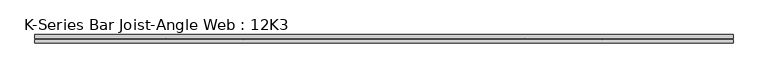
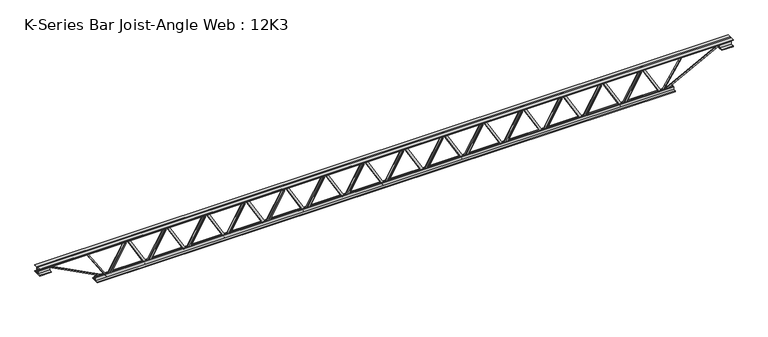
"""IFC4 building model written with IfcOpenShell, lengths in millimetres: beam geometry, K-Series Bar Joist-Angle Web : 12K3."""

from ifc_helpers import new_model, si_unit, frame, origin, place, context, project, spatial, polyline, outline, extrude, faceted_brep, source, transform, mapped, element, save


def k_series_bar_joist_angle_web_12k3_f7e43019(model_context):
    return source(origin(), model_context, "Body", "SolidModel", [
        extrude(outline(polyline([(-4.7625, 4.7624999), (-4.7625, 0.0), (-17.4625, 0.0), (-17.4625, 4.7624999), (-4.7625, 4.7624999)])), frame((2058.0266752, 0.0, -114.3), z_axis=(-0.500371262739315, 0.0, 0.8658109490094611), x_axis=(0.0, -1.0, 0.0)), (0.0, 0.0, 1.0), 264.0299251),
        extrude(outline(polyline([(-149.225, 2090.0571429), (-130.175, 2090.0571429), (-130.175, 2089.2036819), (149.225, 1927.7322534), (149.225, 1909.5357143), (130.175, 1909.5357143), (130.175, 1916.7391752), (-149.225, 2078.2106038), (-149.225, 2090.0571429)])), frame((0.0, 0.0, 0.0), z_axis=(0.0, 1.0, 0.0), x_axis=(0.0, 0.0, 1.0)), (0.0, 0.0, 1.0), 4.7625),
        faceted_brep([(1741.7142857, 0.0, -130.175), (1741.7142857, 0.0, -149.225), (1741.7142857, -4.7625, -149.225), (1741.7142857, -4.7625, -130.175), (1742.5677466, 0.0, -130.175), (1904.0391752, 0.0, 149.225), (1922.2357143, 0.0, 149.225), (1922.2357143, 0.0, 130.175), (1915.0322534, 0.0, 130.175), (1753.5608248, 0.0, -149.225), (1753.5608248, -4.7625, -149.225), (1773.7447534, -4.7625, -114.3), (1769.6213287, -4.7625, -111.9169819), (1901.7343157, -4.7625, 116.6830181), (1905.8577404, -4.7625, 114.3), (1915.0322534, -4.7625, 130.175), (1922.2357143, -4.7625, 130.175), (1922.2357143, -4.7625, 149.225), (1904.0391752, -4.7625, 149.225), (1742.5677466, -4.7625, -130.175), (1905.8577404, -17.4625, 114.3), (1773.7447534, -17.4625, -114.3), (1769.6213287, -17.4625, -111.9169819), (1901.7343157, -17.4625, 116.6830181)], [[[0, 1, 2, 3]], [[1, 0, 4, 5, 6, 7, 8, 9]], [[2, 1, 9, 10]], [[3, 2, 10, 11, 12, 13, 14, 15, 16, 17, 18, 19]], [[0, 3, 19, 4]], [[9, 8, 15, 14, 20, 21, 11, 10]], [[5, 4, 19, 18]], [[7, 6, 17, 16]], [[8, 7, 16, 15]], [[6, 5, 18, 17]], [[21, 22, 12, 11]], [[20, 14, 13, 23]], [[22, 21, 20, 23]], [[12, 22, 23, 13]]]),
        extrude(outline(polyline([(-4.7625, 4.7624999), (-4.7625, 0.0), (-17.4625, 0.0), (-17.4625, 4.7624999), (-4.7625, 4.7624999)])), frame((1709.6838181, 0.0, -114.3), z_axis=(-0.500371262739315, 0.0, 0.8658109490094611), x_axis=(0.0, -1.0, 0.0)), (0.0, 0.0, 1.0), 264.0299251),
        extrude(outline(polyline([(-149.225, 1741.7142857), (-130.175, 1741.7142857), (-130.175, 1740.8608248), (149.225, 1579.3893962), (149.225, 1561.1928571), (130.175, 1561.1928571), (130.175, 1568.3963181), (-149.225, 1729.8677466), (-149.225, 1741.7142857)])), frame((0.0, 0.0, 0.0), z_axis=(0.0, 1.0, 0.0), x_axis=(0.0, 0.0, 1.0)), (0.0, 0.0, 1.0), 4.7625),
        faceted_brep([(1393.3714286, 0.0, -130.175), (1393.3714286, 0.0, -149.225), (1393.3714286, -4.7625, -149.225), (1393.3714286, -4.7625, -130.175), (1394.2248895, 0.0, -130.175), (1555.6963181, 0.0, 149.225), (1573.8928571, 0.0, 149.225), (1573.8928571, 0.0, 130.175), (1566.6893962, 0.0, 130.175), (1405.2179677, 0.0, -149.225), (1405.2179677, -4.7625, -149.225), (1425.4018962, -4.7625, -114.3), (1421.2784716, -4.7625, -111.9169819), (1553.3914586, -4.7625, 116.6830181), (1557.5148832, -4.7625, 114.3), (1566.6893962, -4.7625, 130.175), (1573.8928571, -4.7625, 130.175), (1573.8928571, -4.7625, 149.225), (1555.6963181, -4.7625, 149.225), (1394.2248895, -4.7625, -130.175), (1557.5148832, -17.4625, 114.3), (1425.4018962, -17.4625, -114.3), (1421.2784716, -17.4625, -111.9169819), (1553.3914586, -17.4625, 116.6830181)], [[[0, 1, 2, 3]], [[1, 0, 4, 5, 6, 7, 8, 9]], [[2, 1, 9, 10]], [[3, 2, 10, 11, 12, 13, 14, 15, 16, 17, 18, 19]], [[0, 3, 19, 4]], [[9, 8, 15, 14, 20, 21, 11, 10]], [[5, 4, 19, 18]], [[7, 6, 17, 16]], [[8, 7, 16, 15]], [[6, 5, 18, 17]], [[21, 22, 12, 11]], [[20, 14, 13, 23]], [[22, 21, 20, 23]], [[12, 22, 23, 13]]]),
        extrude(outline(polyline([(-4.7625, 4.7625), (-4.7625, 0.0), (-17.4625, 0.0), (-17.4625, 4.7625), (-4.7625, 4.7625)])), frame((1361.3409609, 0.0, -114.3), z_axis=(-0.500371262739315, 0.0, 0.8658109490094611), x_axis=(0.0, -1.0, 0.0)), (0.0, 0.0, 1.0), 264.0299251),
        extrude(outline(polyline([(-149.225, 1393.3714286), (-130.175, 1393.3714286), (-130.175, 1392.5179677), (149.225, 1231.0465391), (149.225, 1212.85), (130.175, 1212.85), (130.175, 1220.0534609), (-149.225, 1381.5248895), (-149.225, 1393.3714286)])), frame((0.0, 0.0, 0.0), z_axis=(0.0, 1.0, 0.0), x_axis=(0.0, 0.0, 1.0)), (0.0, 0.0, 1.0), 4.7625),
        faceted_brep([(1045.0285714, 0.0, -130.175), (1045.0285714, 0.0, -149.225), (1045.0285714, -4.7625, -149.225), (1045.0285714, -4.7625, -130.175), (1045.8820323, 0.0, -130.175), (1207.3534609, 0.0, 149.225), (1225.55, 0.0, 149.225), (1225.55, 0.0, 130.175), (1218.3465391, 0.0, 130.175), (1056.8751105, 0.0, -149.225), (1056.8751105, -4.7625, -149.225), (1077.0590391, -4.7625, -114.3), (1072.9356144, -4.7625, -111.9169819), (1205.0486015, -4.7625, 116.6830181), (1209.1720261, -4.7625, 114.3), (1218.3465391, -4.7625, 130.175), (1225.55, -4.7625, 130.175), (1225.55, -4.7625, 149.225), (1207.3534609, -4.7625, 149.225), (1045.8820323, -4.7625, -130.175), (1209.1720261, -17.4625, 114.3), (1077.0590391, -17.4625, -114.3), (1072.9356144, -17.4625, -111.9169819), (1205.0486015, -17.4625, 116.6830181)], [[[0, 1, 2, 3]], [[1, 0, 4, 5, 6, 7, 8, 9]], [[2, 1, 9, 10]], [[3, 2, 10, 11, 12, 13, 14, 15, 16, 17, 18, 19]], [[0, 3, 19, 4]], [[9, 8, 15, 14, 20, 21, 11, 10]], [[5, 4, 19, 18]], [[7, 6, 17, 16]], [[8, 7, 16, 15]], [[6, 5, 18, 17]], [[21, 22, 12, 11]], [[20, 14, 13, 23]], [[22, 21, 20, 23]], [[12, 22, 23, 13]]]),
        extrude(outline(polyline([(-4.7625, 4.7624999), (-4.7625, 0.0), (-17.4625, 0.0), (-17.4625, 4.7624999), (-4.7625, 4.7624999)])), frame((1012.9981038, 0.0, -114.3), z_axis=(-0.500371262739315, 0.0, 0.8658109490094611), x_axis=(0.0, -1.0, 0.0)), (0.0, 0.0, 1.0), 264.0299251),
        extrude(outline(polyline([(-149.225, 1045.0285714), (-130.175, 1045.0285714), (-130.175, 1044.1751105), (149.225, 882.7036819), (149.225, 864.5071429), (130.175, 864.5071429), (130.175, 871.7106038), (-149.225, 1033.1820323), (-149.225, 1045.0285714)])), frame((0.0, 0.0, 0.0), z_axis=(0.0, 1.0, 0.0), x_axis=(0.0, 0.0, 1.0)), (0.0, 0.0, 1.0), 4.7625),
        faceted_brep([(696.6857143, 0.0, -130.175), (696.6857143, 0.0, -149.225), (696.6857143, -4.7625, -149.225), (696.6857143, -4.7625, -130.175), (697.5391752, 0.0, -130.175), (859.0106038, 0.0, 149.225), (877.2071429, 0.0, 149.225), (877.2071429, 0.0, 130.175), (870.0036819, 0.0, 130.175), (708.5322534, 0.0, -149.225), (708.5322534, -4.7625, -149.225), (728.7161819, -4.7625, -114.3), (724.5927573, -4.7625, -111.9169819), (856.7057443, -4.7625, 116.6830181), (860.829169, -4.7625, 114.3), (870.0036819, -4.7625, 130.175), (877.2071429, -4.7625, 130.175), (877.2071429, -4.7625, 149.225), (859.0106038, -4.7625, 149.225), (697.5391752, -4.7625, -130.175), (860.829169, -17.4625, 114.3), (728.7161819, -17.4625, -114.3), (724.5927573, -17.4625, -111.9169819), (856.7057443, -17.4625, 116.6830181)], [[[0, 1, 2, 3]], [[1, 0, 4, 5, 6, 7, 8, 9]], [[2, 1, 9, 10]], [[3, 2, 10, 11, 12, 13, 14, 15, 16, 17, 18, 19]], [[0, 3, 19, 4]], [[9, 8, 15, 14, 20, 21, 11, 10]], [[5, 4, 19, 18]], [[7, 6, 17, 16]], [[8, 7, 16, 15]], [[6, 5, 18, 17]], [[21, 22, 12, 11]], [[20, 14, 13, 23]], [[22, 21, 20, 23]], [[12, 22, 23, 13]]]),
        extrude(outline(polyline([(-4.7625, 4.7625), (-4.7625, 0.0), (-17.4625, 0.0), (-17.4625, 4.7625), (-4.7625, 4.7625)])), frame((664.6552466, 0.0, -114.3), z_axis=(-0.500371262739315, 0.0, 0.8658109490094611), x_axis=(0.0, -1.0, 0.0)), (0.0, 0.0, 1.0), 264.0299251),
        extrude(outline(polyline([(-149.225, 696.6857143), (-130.175, 696.6857143), (-130.175, 695.8322534), (149.225, 534.3608248), (149.225, 516.1642857), (130.175, 516.1642857), (130.175, 523.3677466), (-149.225, 684.8391752), (-149.225, 696.6857143)])), frame((0.0, 0.0, 0.0), z_axis=(0.0, 1.0, 0.0), x_axis=(0.0, 0.0, 1.0)), (0.0, 0.0, 1.0), 4.7625),
        faceted_brep([(348.3428571, 0.0, -130.175), (348.3428571, 0.0, -149.225), (348.3428571, -4.7625, -149.225), (348.3428571, -4.7625, -130.175), (349.1963181, 0.0, -130.175), (510.6677466, 0.0, 149.225), (528.8642857, 0.0, 149.225), (528.8642857, 0.0, 130.175), (521.6608248, 0.0, 130.175), (360.1893962, 0.0, -149.225), (360.1893962, -4.7625, -149.225), (380.3733248, -4.7625, -114.3), (376.2499002, -4.7625, -111.9169819), (508.3628872, -4.7625, 116.6830181), (512.4863118, -4.7625, 114.3), (521.6608248, -4.7625, 130.175), (528.8642857, -4.7625, 130.175), (528.8642857, -4.7625, 149.225), (510.6677466, -4.7625, 149.225), (349.1963181, -4.7625, -130.175), (512.4863118, -17.4625, 114.3), (380.3733248, -17.4625, -114.3), (376.2499002, -17.4625, -111.9169819), (508.3628872, -17.4625, 116.6830181)], [[[0, 1, 2, 3]], [[1, 0, 4, 5, 6, 7, 8, 9]], [[2, 1, 9, 10]], [[3, 2, 10, 11, 12, 13, 14, 15, 16, 17, 18, 19]], [[0, 3, 19, 4]], [[9, 8, 15, 14, 20, 21, 11, 10]], [[5, 4, 19, 18]], [[7, 6, 17, 16]], [[8, 7, 16, 15]], [[6, 5, 18, 17]], [[21, 22, 12, 11]], [[20, 14, 13, 23]], [[22, 21, 20, 23]], [[12, 22, 23, 13]]]),
        extrude(outline(polyline([(-4.7625, 4.7624999), (-4.7625, 0.0), (-17.4625, 0.0), (-17.4625, 4.7624999), (-4.7625, 4.7624999)])), frame((316.3123895, 0.0, -114.3), z_axis=(-0.500371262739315, 0.0, 0.8658109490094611), x_axis=(0.0, -1.0, 0.0)), (0.0, 0.0, 1.0), 264.0299251),
        extrude(outline(polyline([(-149.225, 348.3428571), (-130.175, 348.3428571), (-130.175, 347.4893962), (149.225, 186.0179677), (149.225, 167.8214286), (130.175, 167.8214286), (130.175, 175.0248895), (-149.225, 336.4963181), (-149.225, 348.3428571)])), frame((0.0, 0.0, 0.0), z_axis=(0.0, 1.0, 0.0), x_axis=(0.0, 0.0, 1.0)), (0.0, 0.0, 1.0), 4.7625),
        faceted_brep([(0.0, 0.0, -130.175), (0.0, 0.0, -149.225), (0.0, -4.7625, -149.225), (0.0, -4.7625, -130.175), (0.8534609, 0.0, -130.175), (162.3248895, 0.0, 149.225), (180.5214286, 0.0, 149.225), (180.5214286, 0.0, 130.175), (173.3179677, 0.0, 130.175), (11.8465391, 0.0, -149.225), (11.8465391, -4.7625, -149.225), (32.0304677, -4.7625, -114.3), (27.907043, -4.7625, -111.9169819), (160.02003, -4.7625, 116.6830181), (164.1434547, -4.7625, 114.3), (173.3179677, -4.7625, 130.175), (180.5214286, -4.7625, 130.175), (180.5214286, -4.7625, 149.225), (162.3248895, -4.7625, 149.225), (0.8534609, -4.7625, -130.175), (164.1434547, -17.4625, 114.3), (32.0304677, -17.4625, -114.3), (27.907043, -17.4625, -111.9169819), (160.02003, -17.4625, 116.6830181)], [[[0, 1, 2, 3]], [[1, 0, 4, 5, 6, 7, 8, 9]], [[2, 1, 9, 10]], [[3, 2, 10, 11, 12, 13, 14, 15, 16, 17, 18, 19]], [[0, 3, 19, 4]], [[9, 8, 15, 14, 20, 21, 11, 10]], [[5, 4, 19, 18]], [[7, 6, 17, 16]], [[8, 7, 16, 15]], [[6, 5, 18, 17]], [[21, 22, 12, 11]], [[20, 14, 13, 23]], [[22, 21, 20, 23]], [[12, 22, 23, 13]]]),
        extrude(outline(polyline([(-4.7625, 4.7625), (-4.7625, 0.0), (-17.4625, 0.0), (-17.4625, 4.7625), (-4.7625, 4.7625)])), frame((-32.0304677, 0.0, -114.3), z_axis=(-0.500371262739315, 0.0, 0.8658109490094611), x_axis=(0.0, -1.0, 0.0)), (0.0, 0.0, 1.0), 264.0299251),
        extrude(outline(polyline([(-149.225, 0.0), (-130.175, 0.0), (-130.175, -0.8534609), (149.225, -162.3248895), (149.225, -180.5214286), (130.175, -180.5214286), (130.175, -173.3179677), (-149.225, -11.8465391), (-149.225, 0.0)])), frame((0.0, 0.0, 0.0), z_axis=(0.0, 1.0, 0.0), x_axis=(0.0, 0.0, 1.0)), (0.0, 0.0, 1.0), 4.7625),
        faceted_brep([(-348.3428571, 0.0, -130.175), (-348.3428571, 0.0, -149.225), (-348.3428571, -4.7625, -149.225), (-348.3428571, -4.7625, -130.175), (-347.4893962, 0.0, -130.175), (-186.0179677, 0.0, 149.225), (-167.8214286, 0.0, 149.225), (-167.8214286, 0.0, 130.175), (-175.0248895, 0.0, 130.175), (-336.4963181, 0.0, -149.225), (-336.4963181, -4.7625, -149.225), (-316.3123895, -4.7625, -114.3), (-320.4358141, -4.7625, -111.9169819), (-188.3228271, -4.7625, 116.6830181), (-184.1994025, -4.7625, 114.3), (-175.0248895, -4.7625, 130.175), (-167.8214286, -4.7625, 130.175), (-167.8214286, -4.7625, 149.225), (-186.0179677, -4.7625, 149.225), (-347.4893962, -4.7625, -130.175), (-184.1994025, -17.4625, 114.3), (-316.3123895, -17.4625, -114.3), (-320.4358141, -17.4625, -111.9169819), (-188.3228271, -17.4625, 116.6830181)], [[[0, 1, 2, 3]], [[1, 0, 4, 5, 6, 7, 8, 9]], [[2, 1, 9, 10]], [[3, 2, 10, 11, 12, 13, 14, 15, 16, 17, 18, 19]], [[0, 3, 19, 4]], [[9, 8, 15, 14, 20, 21, 11, 10]], [[5, 4, 19, 18]], [[7, 6, 17, 16]], [[8, 7, 16, 15]], [[6, 5, 18, 17]], [[21, 22, 12, 11]], [[20, 14, 13, 23]], [[22, 21, 20, 23]], [[12, 22, 23, 13]]]),
        extrude(outline(polyline([(-4.7625, 4.7624999), (-4.7625, 0.0), (-17.4625, 0.0), (-17.4625, 4.7624999), (-4.7625, 4.7624999)])), frame((-380.3733248, 0.0, -114.3), z_axis=(-0.500371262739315, 0.0, 0.8658109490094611), x_axis=(0.0, -1.0, 0.0)), (0.0, 0.0, 1.0), 264.0299251),
        extrude(outline(polyline([(-149.225, -348.3428571), (-130.175, -348.3428571), (-130.175, -349.1963181), (149.225, -510.6677466), (149.225, -528.8642857), (130.175, -528.8642857), (130.175, -521.6608248), (-149.225, -360.1893962), (-149.225, -348.3428571)])), frame((0.0, 0.0, 0.0), z_axis=(0.0, 1.0, 0.0), x_axis=(0.0, 0.0, 1.0)), (0.0, 0.0, 1.0), 4.7625),
        faceted_brep([(-696.6857143, 0.0, -130.175), (-696.6857143, 0.0, -149.225), (-696.6857143, -4.7625, -149.225), (-696.6857143, -4.7625, -130.175), (-695.8322534, 0.0, -130.175), (-534.3608248, 0.0, 149.225), (-516.1642857, 0.0, 149.225), (-516.1642857, 0.0, 130.175), (-523.3677466, 0.0, 130.175), (-684.8391752, 0.0, -149.225), (-684.8391752, -4.7625, -149.225), (-664.6552466, -4.7625, -114.3), (-668.7786713, -4.7625, -111.9169819), (-536.6656843, -4.7625, 116.6830181), (-532.5422596, -4.7625, 114.3), (-523.3677466, -4.7625, 130.175), (-516.1642857, -4.7625, 130.175), (-516.1642857, -4.7625, 149.225), (-534.3608248, -4.7625, 149.225), (-695.8322534, -4.7625, -130.175), (-532.5422596, -17.4625, 114.3), (-664.6552466, -17.4625, -114.3), (-668.7786713, -17.4625, -111.9169819), (-536.6656843, -17.4625, 116.6830181)], [[[0, 1, 2, 3]], [[1, 0, 4, 5, 6, 7, 8, 9]], [[2, 1, 9, 10]], [[3, 2, 10, 11, 12, 13, 14, 15, 16, 17, 18, 19]], [[0, 3, 19, 4]], [[9, 8, 15, 14, 20, 21, 11, 10]], [[5, 4, 19, 18]], [[7, 6, 17, 16]], [[8, 7, 16, 15]], [[6, 5, 18, 17]], [[21, 22, 12, 11]], [[20, 14, 13, 23]], [[22, 21, 20, 23]], [[12, 22, 23, 13]]]),
        extrude(outline(polyline([(-4.7625, 4.7624999), (-4.7625, 0.0), (-17.4625, 0.0), (-17.4625, 4.7624999), (-4.7625, 4.7624999)])), frame((-728.7161819, 0.0, -114.3), z_axis=(-0.500371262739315, 0.0, 0.8658109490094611), x_axis=(0.0, -1.0, 0.0)), (0.0, 0.0, 1.0), 264.0299251),
        extrude(outline(polyline([(-149.225, -696.6857143), (-130.175, -696.6857143), (-130.175, -697.5391752), (149.225, -859.0106038), (149.225, -877.2071429), (130.175, -877.2071429), (130.175, -870.0036819), (-149.225, -708.5322534), (-149.225, -696.6857143)])), frame((0.0, 0.0, 0.0), z_axis=(0.0, 1.0, 0.0), x_axis=(0.0, 0.0, 1.0)), (0.0, 0.0, 1.0), 4.7625),
        faceted_brep([(-1045.0285714, 0.0, -130.175), (-1045.0285714, 0.0, -149.225), (-1045.0285714, -4.7625, -149.225), (-1045.0285714, -4.7625, -130.175), (-1044.1751105, 0.0, -130.175), (-882.7036819, 0.0, 149.225), (-864.5071429, 0.0, 149.225), (-864.5071429, 0.0, 130.175), (-871.7106038, 0.0, 130.175), (-1033.1820323, 0.0, -149.225), (-1033.1820323, -4.7625, -149.225), (-1012.9981038, -4.7625, -114.3), (-1017.1215284, -4.7625, -111.9169819), (-885.0085414, -4.7625, 116.6830181), (-880.8851168, -4.7625, 114.3), (-871.7106038, -4.7625, 130.175), (-864.5071429, -4.7625, 130.175), (-864.5071429, -4.7625, 149.225), (-882.7036819, -4.7625, 149.225), (-1044.1751105, -4.7625, -130.175), (-880.8851168, -17.4625, 114.3), (-1012.9981038, -17.4625, -114.3), (-1017.1215284, -17.4625, -111.9169819), (-885.0085414, -17.4625, 116.6830181)], [[[0, 1, 2, 3]], [[1, 0, 4, 5, 6, 7, 8, 9]], [[2, 1, 9, 10]], [[3, 2, 10, 11, 12, 13, 14, 15, 16, 17, 18, 19]], [[0, 3, 19, 4]], [[9, 8, 15, 14, 20, 21, 11, 10]], [[5, 4, 19, 18]], [[7, 6, 17, 16]], [[8, 7, 16, 15]], [[6, 5, 18, 17]], [[21, 22, 12, 11]], [[20, 14, 13, 23]], [[22, 21, 20, 23]], [[12, 22, 23, 13]]]),
        extrude(outline(polyline([(-4.7625, 4.7625), (-4.7625, 0.0), (-17.4625, 0.0), (-17.4625, 4.7625), (-4.7625, 4.7625)])), frame((-1077.0590391, 0.0, -114.3), z_axis=(-0.500371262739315, 0.0, 0.8658109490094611), x_axis=(0.0, -1.0, 0.0)), (0.0, 0.0, 1.0), 264.0299251),
        extrude(outline(polyline([(-149.225, -1045.0285714), (-130.175, -1045.0285714), (-130.175, -1045.8820323), (149.225, -1207.3534609), (149.225, -1225.55), (130.175, -1225.55), (130.175, -1218.3465391), (-149.225, -1056.8751105), (-149.225, -1045.0285714)])), frame((0.0, 0.0, 0.0), z_axis=(0.0, 1.0, 0.0), x_axis=(0.0, 0.0, 1.0)), (0.0, 0.0, 1.0), 4.7625),
        faceted_brep([(-1393.3714286, 0.0, -130.175), (-1393.3714286, 0.0, -149.225), (-1393.3714286, -4.7625, -149.225), (-1393.3714286, -4.7625, -130.175), (-1392.5179677, 0.0, -130.175), (-1231.0465391, 0.0, 149.225), (-1212.85, 0.0, 149.225), (-1212.85, 0.0, 130.175), (-1220.0534609, 0.0, 130.175), (-1381.5248895, 0.0, -149.225), (-1381.5248895, -4.7625, -149.225), (-1361.3409609, -4.7625, -114.3), (-1365.4643856, -4.7625, -111.9169819), (-1233.3513985, -4.7625, 116.6830181), (-1229.2279739, -4.7625, 114.3), (-1220.0534609, -4.7625, 130.175), (-1212.85, -4.7625, 130.175), (-1212.85, -4.7625, 149.225), (-1231.0465391, -4.7625, 149.225), (-1392.5179677, -4.7625, -130.175), (-1229.2279739, -17.4625, 114.3), (-1361.3409609, -17.4625, -114.3), (-1365.4643856, -17.4625, -111.9169819), (-1233.3513985, -17.4625, 116.6830181)], [[[0, 1, 2, 3]], [[1, 0, 4, 5, 6, 7, 8, 9]], [[2, 1, 9, 10]], [[3, 2, 10, 11, 12, 13, 14, 15, 16, 17, 18, 19]], [[0, 3, 19, 4]], [[9, 8, 15, 14, 20, 21, 11, 10]], [[5, 4, 19, 18]], [[7, 6, 17, 16]], [[8, 7, 16, 15]], [[6, 5, 18, 17]], [[21, 22, 12, 11]], [[20, 14, 13, 23]], [[22, 21, 20, 23]], [[12, 22, 23, 13]]]),
        extrude(outline(polyline([(-4.7625, 4.7624999), (-4.7625, 0.0), (-17.4625, 0.0), (-17.4625, 4.7624999), (-4.7625, 4.7624999)])), frame((-1425.4018962, 0.0, -114.3), z_axis=(-0.500371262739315, 0.0, 0.8658109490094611), x_axis=(0.0, -1.0, 0.0)), (0.0, 0.0, 1.0), 264.0299251),
        extrude(outline(polyline([(-149.225, -1393.3714286), (-130.175, -1393.3714286), (-130.175, -1394.2248895), (149.225, -1555.6963181), (149.225, -1573.8928571), (130.175, -1573.8928571), (130.175, -1566.6893962), (-149.225, -1405.2179677), (-149.225, -1393.3714286)])), frame((0.0, 0.0, 0.0), z_axis=(0.0, 1.0, 0.0), x_axis=(0.0, 0.0, 1.0)), (0.0, 0.0, 1.0), 4.7625),
        faceted_brep([(-1741.7142857, 0.0, -130.175), (-1741.7142857, 0.0, -149.225), (-1741.7142857, -4.7625, -149.225), (-1741.7142857, -4.7625, -130.175), (-1740.8608248, 0.0, -130.175), (-1579.3893962, 0.0, 149.225), (-1561.1928571, 0.0, 149.225), (-1561.1928571, 0.0, 130.175), (-1568.3963181, 0.0, 130.175), (-1729.8677466, 0.0, -149.225), (-1729.8677466, -4.7625, -149.225), (-1709.6838181, -4.7625, -114.3), (-1713.8072427, -4.7625, -111.9169819), (-1581.6942557, -4.7625, 116.6830181), (-1577.570831, -4.7625, 114.3), (-1568.3963181, -4.7625, 130.175), (-1561.1928571, -4.7625, 130.175), (-1561.1928571, -4.7625, 149.225), (-1579.3893962, -4.7625, 149.225), (-1740.8608248, -4.7625, -130.175), (-1577.570831, -17.4625, 114.3), (-1709.6838181, -17.4625, -114.3), (-1713.8072427, -17.4625, -111.9169819), (-1581.6942557, -17.4625, 116.6830181)], [[[0, 1, 2, 3]], [[1, 0, 4, 5, 6, 7, 8, 9]], [[2, 1, 9, 10]], [[3, 2, 10, 11, 12, 13, 14, 15, 16, 17, 18, 19]], [[0, 3, 19, 4]], [[9, 8, 15, 14, 20, 21, 11, 10]], [[5, 4, 19, 18]], [[7, 6, 17, 16]], [[8, 7, 16, 15]], [[6, 5, 18, 17]], [[21, 22, 12, 11]], [[20, 14, 13, 23]], [[22, 21, 20, 23]], [[12, 22, 23, 13]]]),
        extrude(outline(polyline([(-4.7625, 4.7625), (-4.7625, 0.0), (-17.4625, 0.0), (-17.4625, 4.7625), (-4.7625, 4.7625)])), frame((-1773.7447534, 0.0, -114.3), z_axis=(-0.500371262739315, 0.0, 0.8658109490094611), x_axis=(0.0, -1.0, 0.0)), (0.0, 0.0, 1.0), 264.0299251),
        extrude(outline(polyline([(-149.225, -1741.7142857), (-130.175, -1741.7142857), (-130.175, -1742.5677466), (149.225, -1904.0391752), (149.225, -1922.2357143), (130.175, -1922.2357143), (130.175, -1915.0322534), (-149.225, -1753.5608248), (-149.225, -1741.7142857)])), frame((0.0, 0.0, 0.0), z_axis=(0.0, 1.0, 0.0), x_axis=(0.0, 0.0, 1.0)), (0.0, 0.0, 1.0), 4.7625),
        faceted_brep([(-2090.0571429, 0.0, -130.175), (-2090.0571429, 0.0, -149.225), (-2090.0571429, -4.7625, -149.225), (-2090.0571429, -4.7625, -130.175), (-2089.2036819, 0.0, -130.175), (-1927.7322534, 0.0, 149.225), (-1909.5357143, 0.0, 149.225), (-1909.5357143, 0.0, 130.175), (-1916.7391752, 0.0, 130.175), (-2078.2106038, 0.0, -149.225), (-2078.2106038, -4.7625, -149.225), (-2058.0266752, -4.7625, -114.3), (-2062.1500998, -4.7625, -111.9169819), (-1930.0371128, -4.7625, 116.6830181), (-1925.9136882, -4.7625, 114.3), (-1916.7391752, -4.7625, 130.175), (-1909.5357143, -4.7625, 130.175), (-1909.5357143, -4.7625, 149.225), (-1927.7322534, -4.7625, 149.225), (-2089.2036819, -4.7625, -130.175), (-1925.9136882, -17.4625, 114.3), (-2058.0266752, -17.4625, -114.3), (-2062.1500998, -17.4625, -111.9169819), (-1930.0371128, -17.4625, 116.6830181)], [[[0, 1, 2, 3]], [[1, 0, 4, 5, 6, 7, 8, 9]], [[2, 1, 9, 10]], [[3, 2, 10, 11, 12, 13, 14, 15, 16, 17, 18, 19]], [[0, 3, 19, 4]], [[9, 8, 15, 14, 20, 21, 11, 10]], [[5, 4, 19, 18]], [[7, 6, 17, 16]], [[8, 7, 16, 15]], [[6, 5, 18, 17]], [[21, 22, 12, 11]], [[20, 14, 13, 23]], [[22, 21, 20, 23]], [[12, 22, 23, 13]]]),
        extrude(outline(polyline([(-4.7625, 4.7625), (-4.7625, 0.0), (-17.4625, 0.0), (-17.4625, 4.7625), (-4.7625, 4.7625)])), frame((2406.3695323, 0.0, -114.3), z_axis=(-0.500371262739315, 0.0, 0.8658109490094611), x_axis=(0.0, -1.0, 0.0)), (0.0, 0.0, 1.0), 264.0299251),
        extrude(outline(polyline([(-149.225, 2438.4), (-130.175, 2438.4), (-130.175, 2437.5465391), (149.225, 2276.0751105), (149.225, 2257.8785714), (130.175, 2257.8785714), (130.175, 2265.0820323), (-149.225, 2426.5534609), (-149.225, 2438.4)])), frame((0.0, 0.0, 0.0), z_axis=(0.0, 1.0, 0.0), x_axis=(0.0, 0.0, 1.0)), (0.0, 0.0, 1.0), 4.7625),
        faceted_brep([(2090.0571429, 0.0, -130.175), (2090.0571429, 0.0, -149.225), (2090.0571429, -4.7625, -149.225), (2090.0571429, -4.7625, -130.175), (2090.9106038, 0.0, -130.175), (2252.3820323, 0.0, 149.225), (2270.5785714, 0.0, 149.225), (2270.5785714, 0.0, 130.175), (2263.3751105, 0.0, 130.175), (2101.9036819, 0.0, -149.225), (2101.9036819, -4.7625, -149.225), (2122.0876105, -4.7625, -114.3), (2117.9641859, -4.7625, -111.9169819), (2250.0771729, -4.7625, 116.6830181), (2254.2005975, -4.7625, 114.3), (2263.3751105, -4.7625, 130.175), (2270.5785714, -4.7625, 130.175), (2270.5785714, -4.7625, 149.225), (2252.3820323, -4.7625, 149.225), (2090.9106038, -4.7625, -130.175), (2254.2005975, -17.4625, 114.3), (2122.0876105, -17.4625, -114.3), (2117.9641859, -17.4625, -111.9169819), (2250.0771729, -17.4625, 116.6830181)], [[[0, 1, 2, 3]], [[1, 0, 4, 5, 6, 7, 8, 9]], [[2, 1, 9, 10]], [[3, 2, 10, 11, 12, 13, 14, 15, 16, 17, 18, 19]], [[0, 3, 19, 4]], [[9, 8, 15, 14, 20, 21, 11, 10]], [[5, 4, 19, 18]], [[7, 6, 17, 16]], [[8, 7, 16, 15]], [[6, 5, 18, 17]], [[21, 22, 12, 11]], [[20, 14, 13, 23]], [[22, 21, 20, 23]], [[12, 22, 23, 13]]]),
        extrude(outline(polyline([(-4.7625, 4.7624999), (-4.7625, 0.0), (-17.4625, 0.0), (-17.4625, 4.7624999), (-4.7625, 4.7624999)])), frame((-2122.0876105, 0.0, -114.3), z_axis=(-0.500371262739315, 0.0, 0.8658109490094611), x_axis=(0.0, -1.0, 0.0)), (0.0, 0.0, 1.0), 264.0299251),
        extrude(outline(polyline([(-149.225, -2090.0571429), (-130.175, -2090.0571429), (-130.175, -2090.9106038), (149.225, -2252.3820323), (149.225, -2270.5785714), (130.175, -2270.5785714), (130.175, -2263.3751105), (-149.225, -2101.9036819), (-149.225, -2090.0571429)])), frame((0.0, 0.0, 0.0), z_axis=(0.0, 1.0, 0.0), x_axis=(0.0, 0.0, 1.0)), (0.0, 0.0, 1.0), 4.7625),
        faceted_brep([(-2438.4, 0.0, -130.175), (-2438.4, 0.0, -149.225), (-2438.4, -4.7625, -149.225), (-2438.4, -4.7625, -130.175), (-2437.5465391, 0.0, -130.175), (-2276.0751105, 0.0, 149.225), (-2257.8785714, 0.0, 149.225), (-2257.8785714, 0.0, 130.175), (-2265.0820323, 0.0, 130.175), (-2426.5534609, 0.0, -149.225), (-2426.5534609, -4.7625, -149.225), (-2406.3695323, -4.7625, -114.3), (-2410.492957, -4.7625, -111.9169819), (-2278.37997, -4.7625, 116.6830181), (-2274.2565453, -4.7625, 114.3), (-2265.0820323, -4.7625, 130.175), (-2257.8785714, -4.7625, 130.175), (-2257.8785714, -4.7625, 149.225), (-2276.0751105, -4.7625, 149.225), (-2437.5465391, -4.7625, -130.175), (-2274.2565453, -17.4625, 114.3), (-2406.3695323, -17.4625, -114.3), (-2410.492957, -17.4625, -111.9169819), (-2278.37997, -17.4625, 116.6830181)], [[[0, 1, 2, 3]], [[1, 0, 4, 5, 6, 7, 8, 9]], [[2, 1, 9, 10]], [[3, 2, 10, 11, 12, 13, 14, 15, 16, 17, 18, 19]], [[0, 3, 19, 4]], [[9, 8, 15, 14, 20, 21, 11, 10]], [[5, 4, 19, 18]], [[7, 6, 17, 16]], [[8, 7, 16, 15]], [[6, 5, 18, 17]], [[21, 22, 12, 11]], [[20, 14, 13, 23]], [[22, 21, 20, 23]], [[12, 22, 23, 13]]]),
        extrude(outline(polyline([(4.7625, 152.4), (36.5125, 152.4), (36.5125, 146.05), (11.1125, 146.05), (11.1125, 120.65), (4.7625, 120.65), (4.7625, 152.4)])), frame((-3048.0, 0.0, 0.0), z_axis=(1.0, 0.0, 0.0), x_axis=(0.0, 1.0, 0.0)), (0.0, 0.0, 1.0), 6096.0),
        extrude(outline(polyline([(-4.7625, 152.4), (-4.7625, 120.65), (-11.1125, 120.65), (-11.1125, 146.05), (-36.5125, 146.05), (-36.5125, 152.4), (-4.7625, 152.4)])), frame((-3048.0, 0.0, 0.0), z_axis=(1.0, 0.0, 0.0), x_axis=(0.0, 1.0, 0.0)), (0.0, 0.0, 1.0), 6096.0),
        extrude(outline(polyline([(-4.7625, 88.9), (-36.5125, 88.9), (-36.5125, 95.25), (-11.1125, 95.25), (-11.1125, 120.65), (-4.7625, 120.65), (-4.7625, 88.9)])), frame((-3048.0, 0.0, 0.0), z_axis=(1.0, 0.0, 0.0), x_axis=(0.0, 1.0, 0.0)), (0.0, 0.0, 1.0), 101.6),
        extrude(outline(polyline([(36.5125, 88.9), (4.7625, 88.9), (4.7625, 120.65), (11.1125, 120.65), (11.1125, 95.25), (36.5125, 95.25), (36.5125, 88.9)])), frame((-3048.0, 0.0, 0.0), z_axis=(1.0, 0.0, 0.0), x_axis=(0.0, 1.0, 0.0)), (0.0, 0.0, 1.0), 101.6),
        extrude(outline(polyline([(4.7625, 88.9), (4.7625, 120.65), (11.1125, 120.65), (11.1125, 95.25), (36.5125, 95.25), (36.5125, 88.9), (4.7625, 88.9)])), frame((2946.4, 0.0, 0.0), z_axis=(1.0, 0.0, 0.0), x_axis=(0.0, 1.0, 0.0)), (0.0, 0.0, 1.0), 101.6),
        extrude(outline(polyline([(-4.7625, 88.9), (-36.5125, 88.9), (-36.5125, 95.25), (-11.1125, 95.25), (-11.1125, 120.65), (-4.7625, 120.65), (-4.7625, 88.9)])), frame((2946.4, 0.0, 0.0), z_axis=(1.0, 0.0, 0.0), x_axis=(0.0, 1.0, 0.0)), (0.0, 0.0, 1.0), 101.6),
        extrude(outline(polyline([(4.7625, -152.4), (4.7625, -120.65), (11.1125, -120.65), (11.1125, -146.05), (36.5125, -146.05), (36.5125, -152.4), (4.7625, -152.4)])), frame((-2540.0, 0.0, 0.0), z_axis=(1.0, 0.0, 0.0), x_axis=(0.0, 1.0, 0.0)), (0.0, 0.0, 1.0), 5080.0),
        extrude(outline(polyline([(-4.7625, -152.4), (-36.5125, -152.4), (-36.5125, -146.05), (-11.1125, -146.05), (-11.1125, -120.65), (-4.7625, -120.65), (-4.7625, -152.4)])), frame((-2540.0, 0.0, 0.0), z_axis=(1.0, 0.0, 0.0), x_axis=(0.0, 1.0, 0.0)), (0.0, 0.0, 1.0), 5080.0),
        extrude(outline(polyline([(4.7625, 4.7625), (4.7625, -4.7625), (-4.7625, -4.7625), (-4.7625, 4.7625), (4.7625, 4.7625)])), frame((2438.4, 0.0, -146.05), z_axis=(0.5467889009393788, 0.0, 0.8372705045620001), x_axis=(0.0, -1.0, 0.0)), (0.0, 0.0, 1.0), 318.5350476),
        extrude(outline(polyline([(4.7625, 4.7625), (4.7625, -4.7625), (-4.7625, -4.7625), (-4.7625, 4.7625), (4.7625, 4.7625)])), frame((-2438.4, 0.0, -146.05), z_axis=(-0.5467889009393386, 0.0, 0.8372705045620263), x_axis=(0.0, -1.0, 0.0)), (0.0, 0.0, 1.0), 318.5350476),
        extrude(outline(polyline([(0.0, -9.525), (0.0, 0.0), (573.7533355, 0.0), (573.7533355, -9.525), (0.0, -9.525)])), frame((2948.6137714, -4.7625, 116.4332925), z_axis=(-0.4648338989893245, 0.0, 0.8853979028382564), x_axis=(-0.8853979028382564, 0.0, -0.4648338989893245)), (0.0, 0.0, 1.0), 9.525),
        extrude(outline(polyline([(0.0, -9.525), (0.0, 0.0), (573.7533355, 0.0), (573.7533355, -9.525), (0.0, -9.525)])), frame((-2948.6137714, 4.7625, 116.4332925), z_axis=(0.46483389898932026, 0.0, 0.8853979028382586), x_axis=(0.8853979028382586, 0.0, -0.46483389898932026)), (0.0, 0.0, 1.0), 9.525),
    ])


if __name__ == "__main__":
    model = new_model("IFC4")
    model_context = context("Model", 3, world=origin())
    ifc_project = project(units=[si_unit("LENGTHUNIT", "METRE", prefix="MILLI")], contexts=[model_context])
    site = spatial("IfcSite", under=ifc_project)
    building = spatial("IfcBuilding", under=site)
    placement = place(None, origin())
    k_series_bar_joist_angle_web_12k3_shape = k_series_bar_joist_angle_web_12k3_f7e43019(model_context)
    element("IfcBeam", 1, ObjectType="K-Series Bar Joist-Angle Web : 12K3", at=placement, inside=building, context=model_context, shape_type="MappedRepresentation", body=[
        mapped(k_series_bar_joist_angle_web_12k3_shape, transform((0.0, 0.0, 0.0), x_axis=(1.0, 0.0, 0.0), y_axis=(0.0, 1.0, 0.0), z_axis=(0.0, 0.0, 1.0))),
    ])
    save(model, "model.ifc")
